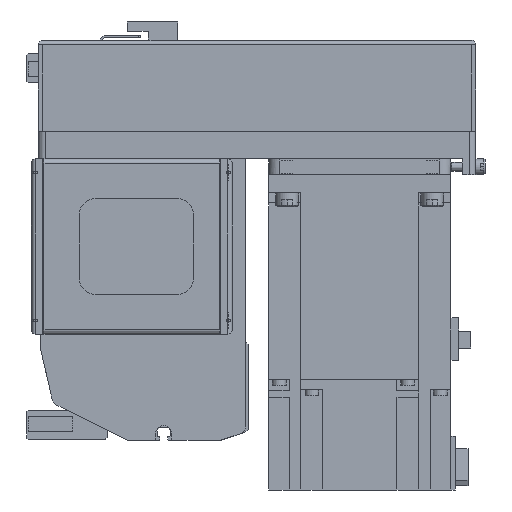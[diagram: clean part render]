
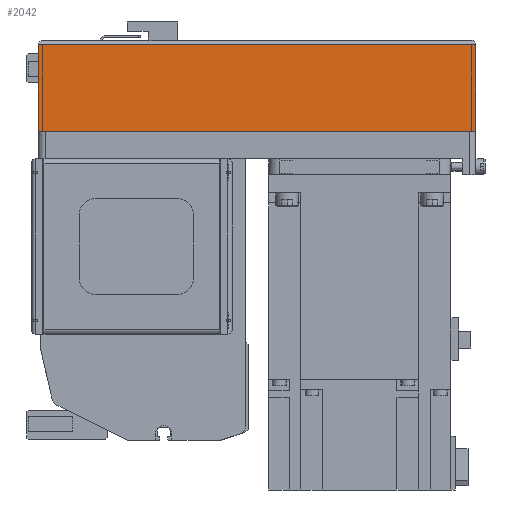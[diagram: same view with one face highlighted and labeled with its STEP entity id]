
A CAD part, left-side view. The second image highlights one B-rep face of the part: STEP entity #2042.
In plain terms, the highlighted planar face has unit normal (-1, 0, 0) as drawn and (0, -1, 0) by its records, which use the part's own axes.
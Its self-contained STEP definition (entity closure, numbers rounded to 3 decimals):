
#2042 = ADVANCED_FACE( '', ( #4769 ), #4770, .T. );
#4769 = FACE_OUTER_BOUND( '', #8325, .T. );
#4770 = PLANE( '', #8326 );
#8325 = EDGE_LOOP( '', ( #14116, #14117, #14118, #14119 ) );
#8326 = AXIS2_PLACEMENT_3D( '', #14120, #14121, #14122 );
#14116 = ORIENTED_EDGE( '', *, *, #22011, .F. );
#14117 = ORIENTED_EDGE( '', *, *, #22012, .F. );
#14118 = ORIENTED_EDGE( '', *, *, #22013, .T. );
#14119 = ORIENTED_EDGE( '', *, *, #22014, .T. );
#14120 = CARTESIAN_POINT( '', ( -192., -40., -12.1 ) );
#14121 = DIRECTION( '', ( 0., -1., 0. ) );
#14122 = DIRECTION( '', ( 0., 0., -1. ) );
#22011 = EDGE_CURVE( '', #26030, #27011, #27012, .T. );
#22012 = EDGE_CURVE( '', #27013, #26030, #27014, .T. );
#22013 = EDGE_CURVE( '', #27013, #27015, #27016, .T. );
#22014 = EDGE_CURVE( '', #27015, #27011, #27017, .T. );
#26030 = VERTEX_POINT( '', #32952 );
#27011 = VERTEX_POINT( '', #34430 );
#27012 = LINE( '', #34431, #34432 );
#27013 = VERTEX_POINT( '', #34433 );
#27014 = LINE( '', #34434, #34435 );
#27015 = VERTEX_POINT( '', #34436 );
#27016 = LINE( '', #34437, #34438 );
#27017 = LINE( '', #34439, #34440 );
#32952 = CARTESIAN_POINT( '', ( 0., -40., -12.1 ) );
#34430 = CARTESIAN_POINT( '', ( 0., -40., -50. ) );
#34431 = CARTESIAN_POINT( '', ( 0., -40., -12.1 ) );
#34432 = VECTOR( '', #40114, 1000. );
#34433 = CARTESIAN_POINT( '', ( -192., -40., -12.1 ) );
#34434 = CARTESIAN_POINT( '', ( -192., -40., -12.1 ) );
#34435 = VECTOR( '', #40115, 1000. );
#34436 = CARTESIAN_POINT( '', ( -192., -40., -50. ) );
#34437 = CARTESIAN_POINT( '', ( -192., -40., -12.1 ) );
#34438 = VECTOR( '', #40116, 1000. );
#34439 = CARTESIAN_POINT( '', ( -192., -40., -50. ) );
#34440 = VECTOR( '', #40117, 1000. );
#40114 = DIRECTION( '', ( 0., 0., -1. ) );
#40115 = DIRECTION( '', ( 1., 0., 0. ) );
#40116 = DIRECTION( '', ( 0., 0., -1. ) );
#40117 = DIRECTION( '', ( 1., 0., 0. ) );
